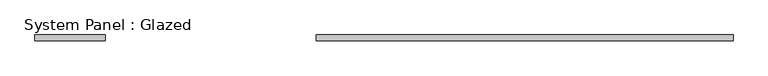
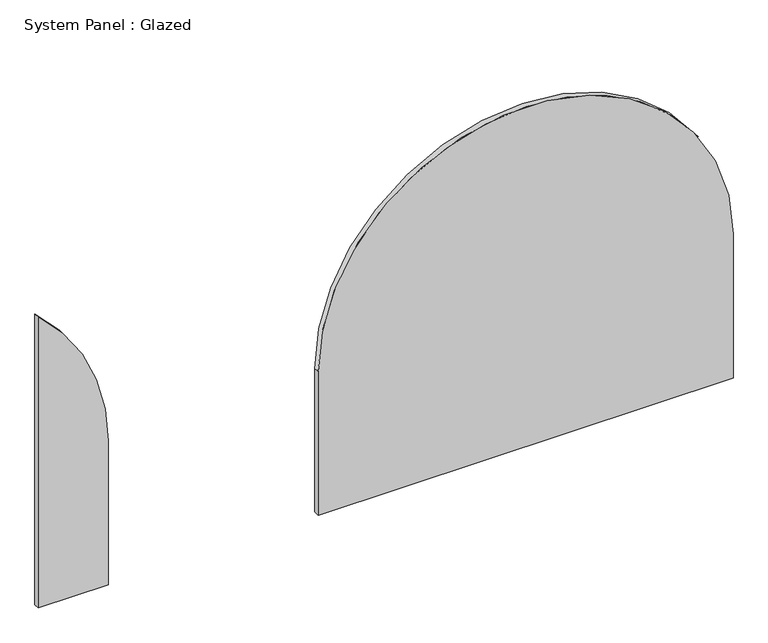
"""IFC4 building model written with IfcOpenShell, lengths in millimetres: plate geometry, System Panel : Glazed."""

import ifcopenshell
import ifcopenshell.guid

model = None  # the IFC model being written
_history = None  # IfcOwnerHistory: only IFC2X3 demands one
_inside = {}  # id of a spatial element -> (the spatial element, [elements in it])
_under = {}  # id of a project, library or spatial element -> (it, [spatial elements below it])
_declared = {}  # id of a project -> (the project, [libraries it declares])
_typed = {}  # id of a type object -> (the type object, [elements of that type])
_made_of = {}  # id of a material, layer set ... -> (it, [elements and type objects made of it])


def new_model(schema):
    """Start an empty IFC model of exactly this schema.

    Asked for "IFC4X3", IfcOpenShell would pick the latest addendum, in which some entities
    have other attributes; the version numbers below select the first issue.
    IFC2X3 requires an IfcOwnerHistory on every rooted entity: one is made here for all.
    """
    global model, _history
    if schema == "IFC4X3":
        model = ifcopenshell.file(schema_version=(4, 3, 0, 0))
    else:
        model = ifcopenshell.file(schema=schema)
    _inside.clear()
    _under.clear()
    _declared.clear()
    _typed.clear()
    _made_of.clear()
    _history = None
    if model.schema == "IFC2X3":
        org = make("IfcOrganization", Name="unknown")
        user = make(
            "IfcPersonAndOrganization",
            ThePerson=make("IfcPerson", FamilyName="unknown"),
            TheOrganization=org,
        )
        app = make(
            "IfcApplication",
            ApplicationDeveloper=org,
            Version="unknown",
            ApplicationFullName="unknown",
            ApplicationIdentifier="unknown",
        )
        _history = make(
            "IfcOwnerHistory",
            OwningUser=user,
            OwningApplication=app,
            ChangeAction="ADDED",
            CreationDate=0,
        )
    return model


def make(cls, **values):
    """One entity of the class cls with the attributes given. An attribute that is None is left unset."""
    return model.create_entity(
        cls, **{name: value for name, value in values.items() if value is not None}
    )


def rooted(cls, **values):
    """An entity with a GlobalId (a new one), such as an element, a storey or a relation."""
    return make(cls, GlobalId=ifcopenshell.guid.new(), OwnerHistory=_history, **values)


def si_unit(unit_type, name, prefix=None):
    """IfcSIUnit, for example si_unit("LENGTHUNIT", "METRE", prefix="MILLI")."""
    return make("IfcSIUnit", UnitType=unit_type, Prefix=prefix, Name=name)


def assignment(units):
    """IfcUnitAssignment: the units of a project."""
    return None if units is None else make("IfcUnitAssignment", Units=units)


def point(xyz):
    """IfcCartesianPoint."""
    return None if xyz is None else make("IfcCartesianPoint", Coordinates=xyz)


def direction(xyz):
    """IfcDirection."""
    return None if xyz is None else make("IfcDirection", DirectionRatios=xyz)


def frame(location, z_axis=None, x_axis=None):
    """IfcAxis2Placement3D, a coordinate frame: its origin and axes. An axis left out is left unset."""
    return make(
        "IfcAxis2Placement3D",
        Location=point(location),
        Axis=direction(z_axis),
        RefDirection=direction(x_axis),
    )


def frame_2d(location, x_axis=None):
    """IfcAxis2Placement2D, a coordinate frame in the plane: its origin and x axis."""
    return make(
        "IfcAxis2Placement2D", Location=point(location), RefDirection=direction(x_axis)
    )


def origin():
    """The frame at (0, 0, 0) with its axes left unset."""
    return frame((0.0, 0.0, 0.0))


def place(relative_to, where):
    """IfcLocalPlacement: puts the frame where relative to a parent placement (None: the world)."""
    return make(
        "IfcLocalPlacement", PlacementRelTo=relative_to, RelativePlacement=where
    )


def context(
    kind, dimensions, precision=None, world=None, true_north=None, identifier=None
):
    """IfcGeometricRepresentationContext, for example the 3D "Model" context."""
    return make(
        "IfcGeometricRepresentationContext",
        ContextIdentifier=identifier,
        ContextType=kind,
        CoordinateSpaceDimension=dimensions,
        Precision=precision,
        WorldCoordinateSystem=world,
        TrueNorth=true_north,
    )


def project(units=None, contexts=None):
    """IfcProject with its units and contexts."""
    return rooted(
        "IfcProject",
        Name="project",
        RepresentationContexts=contexts,
        UnitsInContext=assignment(units),
    )


def spatial(cls, under=None, at=None, **own):
    """A site, building, storey or space (cls), placed at a placement, below another one or the project."""
    s = rooted(cls, ObjectPlacement=at, **own)
    if under is not None:
        _under.setdefault(under.id(), (under, []))[1].append(s)
    return s


def polyline(points):
    """IfcPolyline through the points."""
    return make("IfcPolyline", Points=[point(p) for p in points])


def circle_curve(where, radius):
    """IfcCircle in the frame where."""
    return make("IfcCircle", Position=where, Radius=radius)


def trimmed(basis, trim1, trim2, sense, master):
    """IfcTrimmedCurve: the piece of a basis curve between two trims."""
    return make(
        "IfcTrimmedCurve",
        BasisCurve=basis,
        Trim1=trim1,
        Trim2=trim2,
        SenseAgreement=sense,
        MasterRepresentation=master,
    )


def segment(curve, same_sense, transition):
    """IfcCompositeCurveSegment."""
    return make(
        "IfcCompositeCurveSegment",
        Transition=transition,
        SameSense=same_sense,
        ParentCurve=curve,
    )


def composite_curve(segments, self_intersect=None):
    """IfcCompositeCurve: segments joined end to end."""
    return make("IfcCompositeCurve", Segments=segments, SelfIntersect=self_intersect)


def outline(outer, holes=None, kind="AREA"):
    """IfcArbitraryClosedProfileDef: a profile drawn as a closed curve; with holes, ...WithVoids."""
    if holes is None:
        return make("IfcArbitraryClosedProfileDef", ProfileType=kind, OuterCurve=outer)
    return make(
        "IfcArbitraryProfileDefWithVoids",
        ProfileType=kind,
        OuterCurve=outer,
        InnerCurves=holes,
    )


def extrude(swept, where, along, depth):
    """IfcExtrudedAreaSolid: the profile swept, set in the frame where, extruded along a direction by depth."""
    return make(
        "IfcExtrudedAreaSolid",
        SweptArea=swept,
        Position=where,
        ExtrudedDirection=direction(along),
        Depth=depth,
    )


def shape(context_of_items, identifier, shape_type, items):
    """IfcShapeRepresentation: the items that make up one representation, for example the "Body"."""
    return make(
        "IfcShapeRepresentation",
        ContextOfItems=context_of_items,
        RepresentationIdentifier=identifier,
        RepresentationType=shape_type,
        Items=items,
    )


def source(mapping_origin, context_of_items, identifier, shape_type, items):
    """IfcRepresentationMap: a shape defined once, which mapped items show again and again."""
    return make(
        "IfcRepresentationMap",
        MappingOrigin=mapping_origin,
        MappedRepresentation=shape(context_of_items, identifier, shape_type, items),
    )


def transform(
    local_origin,
    x_axis=None,
    y_axis=None,
    z_axis=None,
    scale=None,
    scale2=None,
    scale3=None,
    uniform=True,
):
    """IfcCartesianTransformationOperator3D, or its non-uniform kind. x_axis, y_axis, z_axis: its Axis1, 2, 3."""
    if uniform:
        return make(
            "IfcCartesianTransformationOperator3D",
            Axis1=direction(x_axis),
            Axis2=direction(y_axis),
            LocalOrigin=point(local_origin),
            Scale=scale,
            Axis3=direction(z_axis),
        )
    return make(
        "IfcCartesianTransformationOperator3DnonUniform",
        Axis1=direction(x_axis),
        Axis2=direction(y_axis),
        LocalOrigin=point(local_origin),
        Scale=scale,
        Axis3=direction(z_axis),
        Scale2=scale2,
        Scale3=scale3,
    )


def mapped(mapping_source, mapping_target):
    """IfcMappedItem: shows the shape of a source again, moved by a transform."""
    return make(
        "IfcMappedItem", MappingSource=mapping_source, MappingTarget=mapping_target
    )


def made_of(thing, what):
    """Note that an element or type object is made of a material, layer set ...; save() writes the relation."""
    if what is not None:
        _made_of.setdefault(what.id(), (what, []))[1].append(thing)
    return thing


def element(
    cls,
    number,
    at=None,
    inside=None,
    cuts=None,
    type_object=None,
    material=None,
    context=None,
    identifier="Body",
    shape_type=None,
    held_by="IfcProductDefinitionShape",
    body=None,
    shapes=None,
    **own,
):
    """One element of the class cls, such as IfcWall. Its Tag is "e" and its number.

    at: its placement. inside: the storey or other place that contains it. cuts: it is an
    opening in that element (IfcRelVoidsElement). A single representation is given by context,
    identifier, shape_type and body (its items); several are given by shapes. held_by: the class
    of the entity that holds the representations. save() writes the other relations.
    """
    e = rooted(cls, Tag="e%d" % number, ObjectPlacement=at, **own)
    if body is not None:
        shapes = [shape(context, identifier, shape_type, body)]
    if shapes is not None:
        e.Representation = make(held_by, Representations=shapes)
    if inside is not None:
        _inside.setdefault(inside.id(), (inside, []))[1].append(e)
    if cuts is not None:
        rooted(
            "IfcRelVoidsElement", RelatingBuildingElement=cuts, RelatedOpeningElement=e
        )
    if type_object is not None:
        _typed.setdefault(type_object.id(), (type_object, []))[1].append(e)
    return made_of(e, material)


def aggregate(whole, parts):
    """IfcRelAggregates: a whole, such as a stair, and the parts it consists of."""
    return rooted("IfcRelAggregates", RelatingObject=whole, RelatedObjects=parts)


def save(model, path):
    """Write the relations noted so far, then the file.

    IfcRelAggregates (storeys below a building ...), IfcRelContainedInSpatialStructure (elements
    in a storey), IfcRelDefinesByType, IfcRelAssociatesMaterial and IfcRelDeclares: one each for
    every whole, place, type object, material and project.
    """
    for whole, parts in _under.values():
        aggregate(whole, parts)
    for where, things in _inside.values():
        rooted(
            "IfcRelContainedInSpatialStructure",
            RelatedElements=things,
            RelatingStructure=where,
        )
    for kind, things in _typed.values():
        rooted("IfcRelDefinesByType", RelatedObjects=things, RelatingType=kind)
    for what, things in _made_of.values():
        rooted("IfcRelAssociatesMaterial", RelatedObjects=things, RelatingMaterial=what)
    for by, libraries in _declared.values():
        rooted("IfcRelDeclares", RelatingContext=by, RelatedDefinitions=libraries)
    model.write(path)


def system_panel_glazed_b415359f(model_context):
    return source(origin(), model_context, "Body", "SweptSolid", [
        extrude(outline(composite_curve([segment(polyline([(0.0, -1568.2500001), (0.0, -1251.7499999), (686.5269791, -1251.7499999)]), True, "CONTINUOUS"), segment(trimmed(circle_curve(frame_2d((686.5269791, -2188.2499999)), 936.5), [point((686.5269791, -1251.7499999))], [point((1388.4046395, -1568.2500001))], False, "CARTESIAN"), True, "CONTINUOUS"), segment(polyline([(1388.4046395, -1568.2500001), (0.0, -1568.2500001)]), True, "CONTINUOUS")], self_intersect=False)), frame((0.0, 19.05, 0.0), z_axis=(0.0, 1.0, 0.0), x_axis=(0.0, 0.0, 1.0)), (0.0, 0.0, 1.0), 25.4),
        extrude(outline(composite_curve([segment(polyline([(0.0, -304.7499999), (0.0, 1568.2500001), (686.5269791, 1568.2500001)]), True, "CONTINUOUS"), segment(trimmed(circle_curve(frame_2d((686.5269791, 631.7500001)), 936.5), [point((686.5269791, 1568.2500001))], [point((686.5269791, -304.7499999))], False, "CARTESIAN"), True, "CONTINUOUS"), segment(polyline([(686.5269791, -304.7499999), (0.0, -304.7499999)]), True, "CONTINUOUS")], self_intersect=False)), frame((0.0, 19.05, 0.0), z_axis=(0.0, 1.0, 0.0), x_axis=(0.0, 0.0, 1.0)), (0.0, 0.0, 1.0), 25.4),
    ])


if __name__ == "__main__":
    model = new_model("IFC4")
    model_context = context("Model", 3, world=origin())
    ifc_project = project(units=[si_unit("LENGTHUNIT", "METRE", prefix="MILLI")], contexts=[model_context])
    site = spatial("IfcSite", under=ifc_project)
    building = spatial("IfcBuilding", under=site)
    placement = place(None, origin())
    system_panel_glazed_shape = system_panel_glazed_b415359f(model_context)
    element("IfcPlate", 1, ObjectType="System Panel : Glazed", at=placement, inside=building, context=model_context, shape_type="MappedRepresentation", body=[
        mapped(system_panel_glazed_shape, transform((0.0, 0.0, 0.0), x_axis=(1.0, 0.0, 0.0), y_axis=(0.0, 1.0, 0.0), z_axis=(0.0, 0.0, 1.0))),
    ])
    save(model, "model.ifc")
